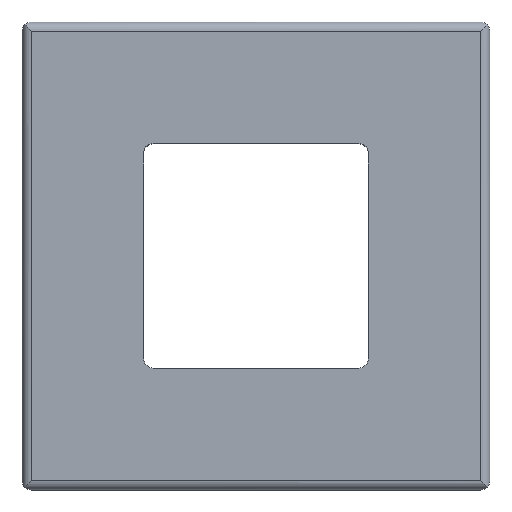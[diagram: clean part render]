
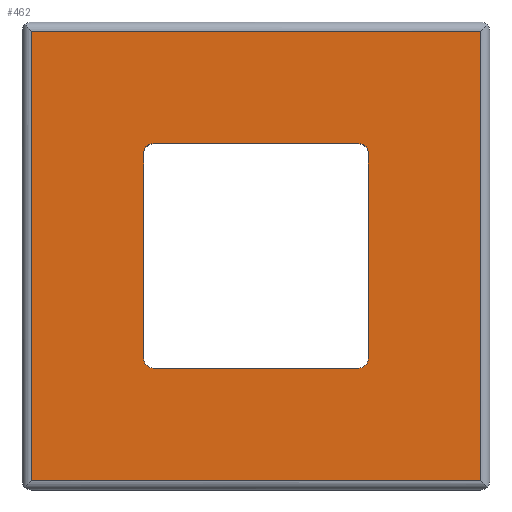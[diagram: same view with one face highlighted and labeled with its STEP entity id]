
A CAD part, top view. The second image highlights one B-rep face of the part: STEP entity #462.
In plain terms, the highlighted planar face has unit normal (0, 0, 1).
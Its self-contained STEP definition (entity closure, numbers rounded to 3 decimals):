
#204 = EDGE_CURVE( '', #252, #468, #543, .T. );
#214 = EDGE_CURVE( '', #356, #228, #554, .T. );
#218 = EDGE_CURVE( '', #468, #226, #558, .T. );
#226 = VERTEX_POINT( '', #566 );
#228 = VERTEX_POINT( '', #568 );
#252 = VERTEX_POINT( '', #596 );
#256 = VERTEX_POINT( '', #601 );
#264 = EDGE_CURVE( '', #488, #478, #610, .T. );
#268 = VERTEX_POINT( '', #615 );
#270 = EDGE_CURVE( '', #226, #356, #617, .T. );
#302 = EDGE_CURVE( '', #452, #252, #653, .T. );
#306 = VERTEX_POINT( '', #657 );
#334 = EDGE_CURVE( '', #478, #268, #688, .T. );
#352 = EDGE_CURVE( '', #228, #466, #707, .T. );
#356 = VERTEX_POINT( '', #712 );
#398 = EDGE_CURVE( '', #256, #268, #756, .T. );
#426 = EDGE_CURVE( '', #488, #256, #786, .T. );
#428 = EDGE_CURVE( '', #306, #452, #788, .T. );
#452 = VERTEX_POINT( '', #814 );
#454 = EDGE_CURVE( '', #466, #306, #816, .T. );
#462 = ADVANCED_FACE( '', ( #825, #826 ), #827, .T. );
#466 = VERTEX_POINT( '', #831 );
#468 = VERTEX_POINT( '', #833 );
#478 = VERTEX_POINT( '', #843 );
#488 = VERTEX_POINT( '', #854 );
#543 = LINE( '', #911, #912 );
#554 = CIRCLE( '', #925, 0.5 );
#558 = CIRCLE( '', #931, 0.5 );
#566 = CARTESIAN_POINT( '', ( 6., -18., 4. ) );
#568 = CARTESIAN_POINT( '', ( 5.5, -6.5, 4. ) );
#596 = CARTESIAN_POINT( '', ( -5.5, -18.5, 4. ) );
#601 = CARTESIAN_POINT( '', ( -12., -0.5, 4. ) );
#610 = LINE( '', #1000, #1001 );
#615 = CARTESIAN_POINT( '', ( 12., -0.5, 4. ) );
#617 = LINE( '', #1009, #1010 );
#653 = CIRCLE( '', #1056, 0.5 );
#657 = CARTESIAN_POINT( '', ( -6., -7., 4. ) );
#688 = LINE( '', #1103, #1104 );
#707 = LINE( '', #1133, #1134 );
#712 = CARTESIAN_POINT( '', ( 6., -7., 4. ) );
#756 = LINE( '', #1196, #1197 );
#786 = LINE( '', #1237, #1238 );
#788 = LINE( '', #1241, #1242 );
#814 = CARTESIAN_POINT( '', ( -6., -18., 4. ) );
#816 = CIRCLE( '', #1280, 0.5 );
#825 = FACE_OUTER_BOUND( '', #1289, .T. );
#826 = FACE_BOUND( '', #1290, .T. );
#827 = PLANE( '', #1291 );
#831 = CARTESIAN_POINT( '', ( -5.5, -6.5, 4. ) );
#833 = CARTESIAN_POINT( '', ( 5.5, -18.5, 4. ) );
#843 = CARTESIAN_POINT( '', ( 12., -24.5, 4. ) );
#854 = CARTESIAN_POINT( '', ( -12., -24.5, 4. ) );
#911 = CARTESIAN_POINT( '', ( -5.5, -18.5, 4. ) );
#912 = VECTOR( '', #1384, 1. );
#925 = AXIS2_PLACEMENT_3D( '', #1400, #1401, #1402 );
#931 = AXIS2_PLACEMENT_3D( '', #1406, #1407, #1408 );
#1000 = CARTESIAN_POINT( '', ( 0., -24.5, 4. ) );
#1001 = VECTOR( '', #1491, 1. );
#1009 = CARTESIAN_POINT( '', ( 6., -18., 4. ) );
#1010 = VECTOR( '', #1500, 1. );
#1056 = AXIS2_PLACEMENT_3D( '', #1552, #1553, #1554 );
#1103 = CARTESIAN_POINT( '', ( 12., -12.5, 4. ) );
#1104 = VECTOR( '', #1587, 1. );
#1133 = CARTESIAN_POINT( '', ( 5.5, -6.5, 4. ) );
#1134 = VECTOR( '', #1603, 1. );
#1196 = CARTESIAN_POINT( '', ( 0., -0.5, 4. ) );
#1197 = VECTOR( '', #1645, 1. );
#1237 = CARTESIAN_POINT( '', ( -12., -12.5, 4. ) );
#1238 = VECTOR( '', #1674, 1. );
#1241 = CARTESIAN_POINT( '', ( -6., -7., 4. ) );
#1242 = VECTOR( '', #1675, 1. );
#1280 = AXIS2_PLACEMENT_3D( '', #1699, #1700, #1701 );
#1289 = EDGE_LOOP( '', ( #1713, #1714, #1715, #1716 ) );
#1290 = EDGE_LOOP( '', ( #1717, #1718, #1719, #1720, #1721, #1722, #1723, #1724 ) );
#1291 = AXIS2_PLACEMENT_3D( '', #1725, #1726, #1727 );
#1384 = DIRECTION( '', ( 1., 0., 0. ) );
#1400 = CARTESIAN_POINT( '', ( 5.5, -7., 4. ) );
#1401 = DIRECTION( '', ( 0., 0., 1. ) );
#1402 = DIRECTION( '', ( 1., 0., 0. ) );
#1406 = CARTESIAN_POINT( '', ( 5.5, -18., 4. ) );
#1407 = DIRECTION( '', ( 0., 0., 1. ) );
#1408 = DIRECTION( '', ( 0., -1., 0. ) );
#1491 = DIRECTION( '', ( 1., 0., 0. ) );
#1500 = DIRECTION( '', ( 0., 1., 0. ) );
#1552 = CARTESIAN_POINT( '', ( -5.5, -18., 4. ) );
#1553 = DIRECTION( '', ( 0., 0., 1. ) );
#1554 = DIRECTION( '', ( -1., 0., 0. ) );
#1587 = DIRECTION( '', ( 0., 1., 0. ) );
#1603 = DIRECTION( '', ( -1., 0., 0. ) );
#1645 = DIRECTION( '', ( 1., 0., 0. ) );
#1674 = DIRECTION( '', ( 0., 1., 0. ) );
#1675 = DIRECTION( '', ( 0., -1., 0. ) );
#1699 = CARTESIAN_POINT( '', ( -5.5, -7., 4. ) );
#1700 = DIRECTION( '', ( 0., 0., 1. ) );
#1701 = DIRECTION( '', ( 0., 1., 0. ) );
#1713 = ORIENTED_EDGE( '', *, *, #398, .F. );
#1714 = ORIENTED_EDGE( '', *, *, #426, .F. );
#1715 = ORIENTED_EDGE( '', *, *, #264, .T. );
#1716 = ORIENTED_EDGE( '', *, *, #334, .T. );
#1717 = ORIENTED_EDGE( '', *, *, #454, .F. );
#1718 = ORIENTED_EDGE( '', *, *, #352, .F. );
#1719 = ORIENTED_EDGE( '', *, *, #214, .F. );
#1720 = ORIENTED_EDGE( '', *, *, #270, .F. );
#1721 = ORIENTED_EDGE( '', *, *, #218, .F. );
#1722 = ORIENTED_EDGE( '', *, *, #204, .F. );
#1723 = ORIENTED_EDGE( '', *, *, #302, .F. );
#1724 = ORIENTED_EDGE( '', *, *, #428, .F. );
#1725 = CARTESIAN_POINT( '', ( 0., 0., 4. ) );
#1726 = DIRECTION( '', ( 0., 0., 1. ) );
#1727 = DIRECTION( '', ( 1., 0., 0. ) );
